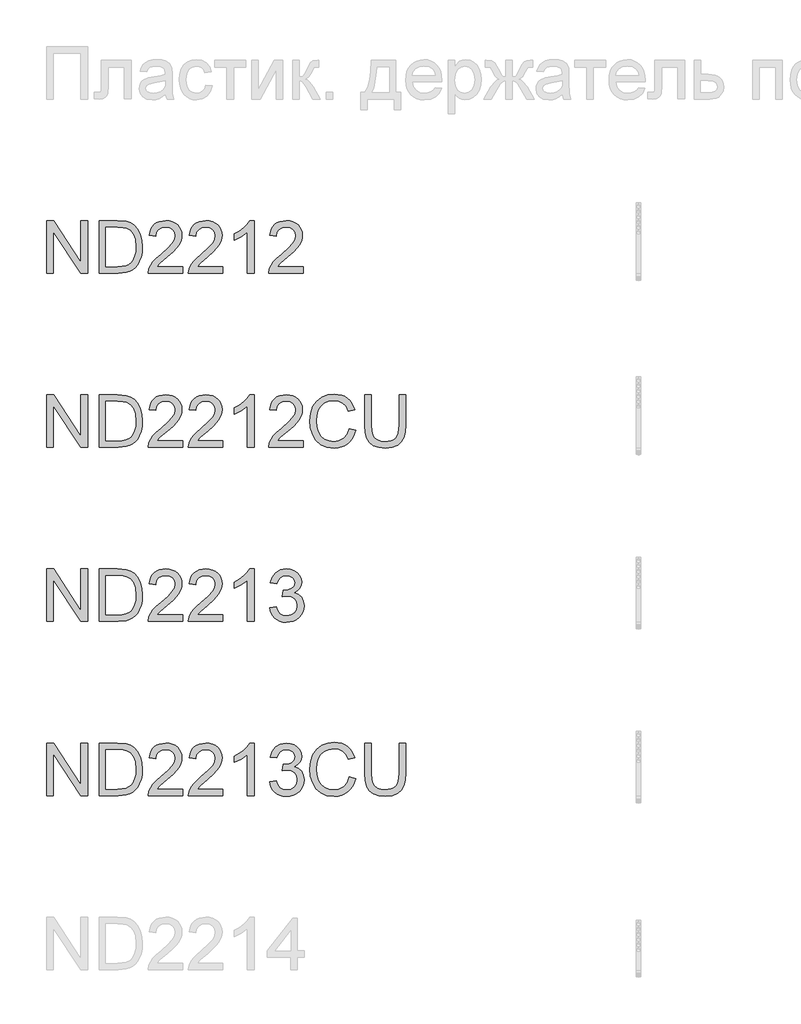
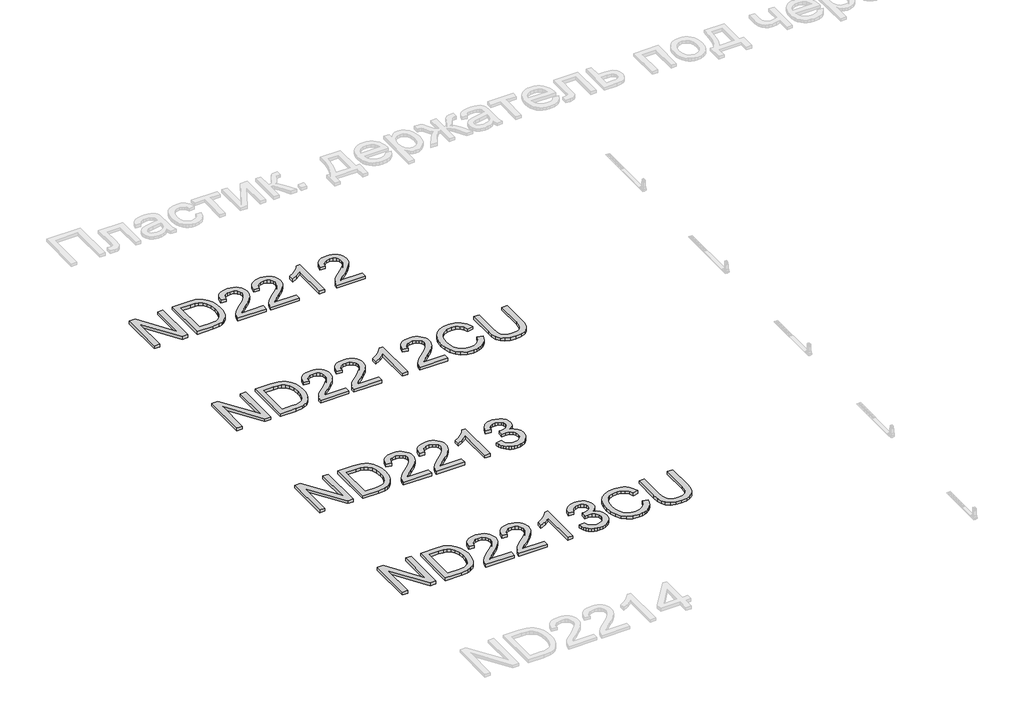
# One storey, part 71 of 124: 4 proxies.
"""IFC4 building model written with IfcOpenShell, lengths in millimetres."""

from ifc_helpers import new_model, si_unit, origin, origin_with_axes, place, context, project, spatial, polyline, outline, extrude, element, save

model = new_model("IFC4")

# Units and contexts
model_context = context("Model", 3, world=origin())
ifc_project = project(units=[si_unit("LENGTHUNIT", "METRE", prefix="MILLI")], contexts=[model_context])

# Site, building, storey
site = spatial("IfcSite", under=ifc_project)
building = spatial("IfcBuilding", under=site)
storey = spatial("IfcBuildingStorey", under=building, Name="Этаж 01", Elevation=0.0)

# Proxies
placement = place(None, origin())
element("IfcBuildingElementProxy", 1, Name="300", ObjectType="300", at=placement, inside=storey, context=model_context, shape_type="SweptSolid", body=[
    extrude(outline(polyline([(23426.0630912, -35519.5141033), (23426.0630912, -35218.1451728), (23466.3829579, -35218.1451728), (23623.8364518, -35456.9005877), (23623.8364518, -35218.1451728), (23661.5075681, -35218.1451728), (23661.5075681, -35519.5141033), (23621.1877014, -35519.5141033), (23463.7342075, -35280.685112), (23463.7342075, -35519.5141033), (23426.0630912, -35519.5141033)])), origin_with_axes(), (0.0, 0.0, 1.0), 20.0),
    extrude(outline(polyline([(23727.4320216, -35519.5141033), (23727.4320216, -35218.1451728), (23831.3954735, -35218.1451728), (23885.1798212, -35222.4861804), (23909.2025155, -35230.8554957), (23929.4728134, -35244.0440653), (23950.3133284, -35266.9999018), (23965.1573669, -35295.5475446), (23974.0417171, -35329.1351708), (23977.0031672, -35367.2109573), (23974.9982103, -35399.5569817), (23968.9833397, -35428.0218511), (23959.823078, -35452.2560775), (23948.3819479, -35471.9101731), (23935.2117725, -35487.4255962), (23920.8643747, -35499.2438053), (23904.3924584, -35508.0085939), (23884.8487274, -35514.3637553), (23836.3986686, -35519.5141033), (23727.4320216, -35519.5141033)]), holes=[polyline([(23765.1031379, -35481.842987), (23831.7633555, -35481.842987), (23859.336111, -35480.4818236), (23880.2502024, -35476.3983334), (23896.03234, -35469.8316398), (23908.2092341, -35461.020866), (23921.2966361, -35444.7144966), (23931.1282824, -35423.6072671), (23937.2811087, -35397.6072071), (23939.3320509, -35366.6223461), (23935.3129401, -35325.5667154), (23923.2556077, -35295.253239), (23905.4409221, -35274.4311181), (23884.1497516, -35261.8495538), (23862.4815021, -35257.3246053), (23830.7332859, -35255.8162891), (23765.1031379, -35255.8162891), (23765.1031379, -35481.842987)])]), origin_with_axes(), (0.0, 0.0, 1.0), 20.0),
    extrude(outline(polyline([(24207.7387545, -35481.842987), (24207.7387545, -35519.5141033), (24009.9653939, -35519.5141033), (24014.0120959, -35493.5416344), (24023.3011163, -35473.2437453), (24036.894356, -35453.5528615), (24056.5576486, -35432.9422727), (24084.0568278, -35409.8852687), (24124.7077882, -35373.7776509), (24149.0983645, -35347.1246003), (24161.2936527, -35325.493139), (24165.3587487, -35304.4502889), (24161.5235789, -35285.5871396), (24150.0180695, -35269.9061695), (24132.3321426, -35259.3387592), (24109.9557202, -35255.8162891), (24086.4572578, -35259.2559858), (24068.2011138, -35269.5750757), (24056.4196929, -35285.9642186), (24052.3453998, -35307.614074), (24014.6742835, -35302.9051845), (24023.806954, -35266.4664729), (24032.3533126, -35251.9305355), (24043.5530201, -35239.8502105), (24057.1485591, -35230.3542565), (24072.8824122, -35223.5714322), (24110.7650606, -35218.1451728), (24130.9548844, -35219.653489), (24148.9236206, -35224.1784375), (24164.6712692, -35231.7200184), (24178.1978303, -35242.2782317), (24189.0618455, -35255.0713281), (24196.8218563, -35269.3175583), (24201.4778628, -35285.0169225), (24203.029865, -35302.1694205), (24201.3560019, -35320.1864412), (24196.3344127, -35337.8907622), (24187.4224714, -35355.8985859), (24174.077552, -35374.8261146), (24152.8047756, -35397.4232661), (24120.1092633, -35426.4399585), (24076.7727643, -35462.676335), (24059.7766161, -35481.842987), (24207.7387545, -35481.842987)])), origin_with_axes(), (0.0, 0.0, 1.0), 20.0),
    extrude(outline(polyline([(24438.4743419, -35481.842987), (24438.4743419, -35519.5141033), (24240.7009813, -35519.5141033), (24244.7476833, -35493.5416344), (24254.0367036, -35473.2437453), (24267.6299434, -35453.5528615), (24287.293236, -35432.9422727), (24314.7924151, -35409.8852687), (24355.4433756, -35373.7776509), (24379.8339519, -35347.1246003), (24392.02924, -35325.493139), (24396.0943361, -35304.4502889), (24392.2591663, -35285.5871396), (24380.7536569, -35269.9061695), (24363.06773, -35259.3387592), (24340.6913076, -35255.8162891), (24317.1928452, -35259.2559858), (24298.9367012, -35269.5750757), (24287.1552803, -35285.9642186), (24283.0809872, -35307.614074), (24245.4098709, -35302.9051845), (24254.5425414, -35266.4664729), (24263.0889, -35251.9305355), (24274.2886075, -35239.8502105), (24287.8841465, -35230.3542565), (24303.6179995, -35223.5714322), (24341.500648, -35218.1451728), (24361.6904717, -35219.653489), (24379.6592079, -35224.1784375), (24395.4068566, -35231.7200184), (24408.9334177, -35242.2782317), (24419.7974329, -35255.0713281), (24427.5574437, -35269.3175583), (24432.2134502, -35285.0169225), (24433.7654524, -35302.1694205), (24432.0915893, -35320.1864412), (24427.0700001, -35337.8907622), (24418.1580587, -35355.8985859), (24404.8131394, -35374.8261146), (24383.540363, -35397.4232661), (24350.8448507, -35426.4399585), (24307.5083516, -35462.676335), (24290.5122035, -35481.842987), (24438.4743419, -35481.842987)])), origin_with_axes(), (0.0, 0.0, 1.0), 20.0),
    extrude(outline(polyline([(24617.4121444, -35519.5141033), (24579.7410281, -35519.5141033), (24579.7410281, -35284.6582375), (24544.0564745, -35310.0788834), (24504.3987955, -35329.0983826), (24504.3987955, -35293.4874054), (24533.9857049, -35277.3925681), (24559.6178829, -35258.2443103), (24579.8238015, -35237.8820419), (24593.1319327, -35218.1451728), (24617.4121444, -35218.1451728), (24617.4121444, -35519.5141033)])), origin_with_axes(), (0.0, 0.0, 1.0), 20.0),
    extrude(outline(polyline([(24899.9455167, -35481.842987), (24899.9455167, -35519.5141033), (24702.1721561, -35519.5141033), (24706.218858, -35493.5416344), (24715.5078784, -35473.2437453), (24729.1011181, -35453.5528615), (24748.7644108, -35432.9422727), (24776.2635899, -35409.8852687), (24816.9145504, -35373.7776509), (24841.3051266, -35347.1246003), (24853.5004148, -35325.493139), (24857.5655108, -35304.4502889), (24853.730341, -35285.5871396), (24842.2248316, -35269.9061695), (24824.5389047, -35259.3387592), (24802.1624824, -35255.8162891), (24778.6640199, -35259.2559858), (24760.4078759, -35269.5750757), (24748.626455, -35285.9642186), (24744.5521619, -35307.614074), (24706.8810456, -35302.9051845), (24716.0137161, -35266.4664729), (24724.5600747, -35251.9305355), (24735.7597822, -35239.8502105), (24749.3553212, -35230.3542565), (24765.0891743, -35223.5714322), (24802.9718227, -35218.1451728), (24823.1616465, -35219.653489), (24841.1303827, -35224.1784375), (24856.8780313, -35231.7200184), (24870.4045925, -35242.2782317), (24881.2686076, -35255.0713281), (24889.0286185, -35269.3175583), (24893.684625, -35285.0169225), (24895.2366271, -35302.1694205), (24893.5627641, -35320.1864412), (24888.5411748, -35337.8907622), (24879.6292335, -35355.8985859), (24866.2843141, -35374.8261146), (24845.0115377, -35397.4232661), (24812.3160254, -35426.4399585), (24768.9795264, -35462.676335), (24751.9833782, -35481.842987), (24899.9455167, -35481.842987)])), origin_with_axes(), (0.0, 0.0, 1.0), 20.0),
])
element("IfcBuildingElementProxy", 2, Name="300", ObjectType="300", at=placement, inside=storey, context=model_context, shape_type="SweptSolid", body=[
    extrude(outline(polyline([(23426.0630912, -36519.5141033), (23426.0630912, -36218.1451728), (23466.3829579, -36218.1451728), (23623.8364518, -36456.9005877), (23623.8364518, -36218.1451728), (23661.5075681, -36218.1451728), (23661.5075681, -36519.5141033), (23621.1877014, -36519.5141033), (23463.7342075, -36280.685112), (23463.7342075, -36519.5141033), (23426.0630912, -36519.5141033)])), origin_with_axes(), (0.0, 0.0, 1.0), 20.0),
    extrude(outline(polyline([(23727.4320216, -36519.5141033), (23727.4320216, -36218.1451728), (23831.3954735, -36218.1451728), (23885.1798212, -36222.4861804), (23909.2025155, -36230.8554957), (23929.4728134, -36244.0440653), (23950.3133284, -36266.9999018), (23965.1573669, -36295.5475446), (23974.0417171, -36329.1351708), (23977.0031672, -36367.2109573), (23974.9982103, -36399.5569817), (23968.9833397, -36428.0218511), (23959.823078, -36452.2560775), (23948.3819479, -36471.9101731), (23935.2117725, -36487.4255962), (23920.8643747, -36499.2438053), (23904.3924584, -36508.0085939), (23884.8487274, -36514.3637553), (23836.3986686, -36519.5141033), (23727.4320216, -36519.5141033)]), holes=[polyline([(23765.1031379, -36481.842987), (23831.7633555, -36481.842987), (23859.336111, -36480.4818236), (23880.2502024, -36476.3983334), (23896.03234, -36469.8316398), (23908.2092341, -36461.020866), (23921.2966361, -36444.7144966), (23931.1282824, -36423.6072671), (23937.2811087, -36397.6072071), (23939.3320509, -36366.6223461), (23935.3129401, -36325.5667154), (23923.2556077, -36295.253239), (23905.4409221, -36274.4311181), (23884.1497516, -36261.8495538), (23862.4815021, -36257.3246053), (23830.7332859, -36255.8162891), (23765.1031379, -36255.8162891), (23765.1031379, -36481.842987)])]), origin_with_axes(), (0.0, 0.0, 1.0), 20.0),
    extrude(outline(polyline([(24207.7387545, -36481.842987), (24207.7387545, -36519.5141033), (24009.9653939, -36519.5141033), (24014.0120959, -36493.5416344), (24023.3011163, -36473.2437453), (24036.894356, -36453.5528615), (24056.5576486, -36432.9422727), (24084.0568278, -36409.8852687), (24124.7077882, -36373.7776509), (24149.0983645, -36347.1246003), (24161.2936527, -36325.493139), (24165.3587487, -36304.4502889), (24161.5235789, -36285.5871396), (24150.0180695, -36269.9061695), (24132.3321426, -36259.3387592), (24109.9557202, -36255.8162891), (24086.4572578, -36259.2559858), (24068.2011138, -36269.5750757), (24056.4196929, -36285.9642186), (24052.3453998, -36307.614074), (24014.6742835, -36302.9051845), (24023.806954, -36266.4664729), (24032.3533126, -36251.9305355), (24043.5530201, -36239.8502105), (24057.1485591, -36230.3542565), (24072.8824122, -36223.5714322), (24110.7650606, -36218.1451728), (24130.9548844, -36219.653489), (24148.9236206, -36224.1784375), (24164.6712692, -36231.7200184), (24178.1978303, -36242.2782317), (24189.0618455, -36255.0713281), (24196.8218563, -36269.3175583), (24201.4778628, -36285.0169225), (24203.029865, -36302.1694205), (24201.3560019, -36320.1864412), (24196.3344127, -36337.8907622), (24187.4224714, -36355.8985859), (24174.077552, -36374.8261146), (24152.8047756, -36397.4232661), (24120.1092633, -36426.4399585), (24076.7727643, -36462.676335), (24059.7766161, -36481.842987), (24207.7387545, -36481.842987)])), origin_with_axes(), (0.0, 0.0, 1.0), 20.0),
    extrude(outline(polyline([(24438.4743419, -36481.842987), (24438.4743419, -36519.5141033), (24240.7009813, -36519.5141033), (24244.7476833, -36493.5416344), (24254.0367036, -36473.2437453), (24267.6299434, -36453.5528615), (24287.293236, -36432.9422727), (24314.7924151, -36409.8852687), (24355.4433756, -36373.7776509), (24379.8339519, -36347.1246003), (24392.02924, -36325.493139), (24396.0943361, -36304.4502889), (24392.2591663, -36285.5871396), (24380.7536569, -36269.9061695), (24363.06773, -36259.3387592), (24340.6913076, -36255.8162891), (24317.1928452, -36259.2559858), (24298.9367012, -36269.5750757), (24287.1552803, -36285.9642186), (24283.0809872, -36307.614074), (24245.4098709, -36302.9051845), (24254.5425414, -36266.4664729), (24263.0889, -36251.9305355), (24274.2886075, -36239.8502105), (24287.8841465, -36230.3542565), (24303.6179995, -36223.5714322), (24341.500648, -36218.1451728), (24361.6904717, -36219.653489), (24379.6592079, -36224.1784375), (24395.4068566, -36231.7200184), (24408.9334177, -36242.2782317), (24419.7974329, -36255.0713281), (24427.5574437, -36269.3175583), (24432.2134502, -36285.0169225), (24433.7654524, -36302.1694205), (24432.0915893, -36320.1864412), (24427.0700001, -36337.8907622), (24418.1580587, -36355.8985859), (24404.8131394, -36374.8261146), (24383.540363, -36397.4232661), (24350.8448507, -36426.4399585), (24307.5083516, -36462.676335), (24290.5122035, -36481.842987), (24438.4743419, -36481.842987)])), origin_with_axes(), (0.0, 0.0, 1.0), 20.0),
    extrude(outline(polyline([(24617.4121444, -36519.5141033), (24579.7410281, -36519.5141033), (24579.7410281, -36284.6582375), (24544.0564745, -36310.0788834), (24504.3987955, -36329.0983826), (24504.3987955, -36293.4874054), (24533.9857049, -36277.3925681), (24559.6178829, -36258.2443103), (24579.8238015, -36237.8820419), (24593.1319327, -36218.1451728), (24617.4121444, -36218.1451728), (24617.4121444, -36519.5141033)])), origin_with_axes(), (0.0, 0.0, 1.0), 20.0),
    extrude(outline(polyline([(24899.9455167, -36481.842987), (24899.9455167, -36519.5141033), (24702.1721561, -36519.5141033), (24706.218858, -36493.5416344), (24715.5078784, -36473.2437453), (24729.1011181, -36453.5528615), (24748.7644108, -36432.9422727), (24776.2635899, -36409.8852687), (24816.9145504, -36373.7776509), (24841.3051266, -36347.1246003), (24853.5004148, -36325.493139), (24857.5655108, -36304.4502889), (24853.730341, -36285.5871396), (24842.2248316, -36269.9061695), (24824.5389047, -36259.3387592), (24802.1624824, -36255.8162891), (24778.6640199, -36259.2559858), (24760.4078759, -36269.5750757), (24748.626455, -36285.9642186), (24744.5521619, -36307.614074), (24706.8810456, -36302.9051845), (24716.0137161, -36266.4664729), (24724.5600747, -36251.9305355), (24735.7597822, -36239.8502105), (24749.3553212, -36230.3542565), (24765.0891743, -36223.5714322), (24802.9718227, -36218.1451728), (24823.1616465, -36219.653489), (24841.1303827, -36224.1784375), (24856.8780313, -36231.7200184), (24870.4045925, -36242.2782317), (24881.2686076, -36255.0713281), (24889.0286185, -36269.3175583), (24893.684625, -36285.0169225), (24895.2366271, -36302.1694205), (24893.5627641, -36320.1864412), (24888.5411748, -36337.8907622), (24879.6292335, -36355.8985859), (24866.2843141, -36374.8261146), (24845.0115377, -36397.4232661), (24812.3160254, -36426.4399585), (24768.9795264, -36462.676335), (24751.9833782, -36481.842987), (24899.9455167, -36481.842987)])), origin_with_axes(), (0.0, 0.0, 1.0), 20.0),
    extrude(outline(polyline([(25163.6433308, -36412.3868663), (25201.3144471, -36422.0989509), (25193.8602382, -36445.5261362), (25183.9320228, -36465.99647), (25171.5298011, -36483.5099522), (25156.6535729, -36498.0665829), (25139.6390306, -36509.5100123), (25120.8218666, -36517.6838903), (25100.2020807, -36522.5882172), (25077.7796731, -36524.2229928), (25034.0844892, -36519.27498), (24999.38402, -36504.4309415), (24972.7861517, -36480.2059121), (24953.3987706, -36447.1149266), (24941.5621674, -36408.2114056), (24937.616633, -36366.5487697), (24942.0772022, -36322.6052653), (24955.4589097, -36284.6582375), (24977.0627799, -36253.9124998), (25006.1898369, -36231.5728656), (25040.7339562, -36217.9704289), (25078.5890135, -36213.4362833), (25119.8929645, -36219.3040011), (25137.8617007, -36226.6386484), (25154.0416107, -36236.9071546), (25168.1659801, -36249.8382067), (25179.9680943, -36265.1604918), (25196.6055576, -36302.9787609), (25158.9344413, -36311.9550816), (25145.8746304, -36284.4834936), (25128.0323537, -36265.6387384), (25105.1868818, -36254.7402343), (25077.1174855, -36251.1073996), (25044.7622641, -36255.1357074), (25018.1827899, -36267.220631), (24998.0136595, -36286.0929773), (24984.8894694, -36310.4835536), (24977.6881793, -36338.0563091), (24975.2877493, -36366.4751933), (24978.1296377, -36401.27683), (24986.6553029, -36431.3695772), (25001.1866417, -36455.6038036), (25022.0455509, -36472.8298781), (25047.0523295, -36483.1213769), (25074.0272768, -36486.5518765), (25105.4719903, -36481.8797752), (25131.6743854, -36467.8634711), (25151.4572397, -36444.6501172), (25163.6433308, -36412.3868663)])), origin_with_axes(), (0.0, 0.0, 1.0), 20.0),
    extrude(outline(polyline([(25450.8855926, -36218.1451728), (25488.556709, -36218.1451728), (25488.556709, -36392.0062037), (25485.9999291, -36432.7215435), (25478.3295895, -36464.0742866), (25464.0005858, -36488.2625278), (25441.4678136, -36507.484362), (25410.6760906, -36520.0383351), (25371.5702345, -36524.2229928), (25333.319704, -36520.580961), (25302.7395132, -36509.6548658), (25279.8204649, -36491.8217861), (25264.5533621, -36467.4588009), (25255.9725146, -36434.7816827), (25253.112232, -36392.0062037), (25253.112232, -36218.1451728), (25290.7833483, -36218.1451728), (25290.7833483, -36390.6818285), (25292.6411524, -36424.5361692), (25298.2145646, -36448.108208), (25308.3129254, -36464.4329715), (25323.7455751, -36476.5454862), (25343.8687203, -36484.0502789), (25368.0385673, -36486.5518765), (25406.3534771, -36481.6038637), (25420.6962764, -36475.4188476), (25431.8293053, -36466.7598252), (25440.166431, -36454.5829311), (25446.1215208, -36437.8443003), (25450.8855926, -36390.6818285), (25450.8855926, -36218.1451728)])), origin_with_axes(), (0.0, 0.0, 1.0), 20.0),
])
element("IfcBuildingElementProxy", 3, Name="300", ObjectType="300", at=placement, inside=storey, context=model_context, shape_type="SweptSolid", body=[
    extrude(outline(polyline([(23426.0630912, -37519.5141033), (23426.0630912, -37218.1451728), (23466.3829579, -37218.1451728), (23623.8364518, -37456.9005877), (23623.8364518, -37218.1451728), (23661.5075681, -37218.1451728), (23661.5075681, -37519.5141033), (23621.1877014, -37519.5141033), (23463.7342075, -37280.685112), (23463.7342075, -37519.5141033), (23426.0630912, -37519.5141033)])), origin_with_axes(), (0.0, 0.0, 1.0), 20.0),
    extrude(outline(polyline([(23727.4320216, -37519.5141033), (23727.4320216, -37218.1451728), (23831.3954735, -37218.1451728), (23885.1798212, -37222.4861804), (23909.2025155, -37230.8554957), (23929.4728134, -37244.0440653), (23950.3133284, -37266.9999018), (23965.1573669, -37295.5475446), (23974.0417171, -37329.1351708), (23977.0031672, -37367.2109573), (23974.9982103, -37399.5569817), (23968.9833397, -37428.0218511), (23959.823078, -37452.2560775), (23948.3819479, -37471.9101731), (23935.2117725, -37487.4255962), (23920.8643747, -37499.2438053), (23904.3924584, -37508.0085939), (23884.8487274, -37514.3637553), (23836.3986686, -37519.5141033), (23727.4320216, -37519.5141033)]), holes=[polyline([(23765.1031379, -37481.842987), (23831.7633555, -37481.842987), (23859.336111, -37480.4818236), (23880.2502024, -37476.3983334), (23896.03234, -37469.8316398), (23908.2092341, -37461.020866), (23921.2966361, -37444.7144966), (23931.1282824, -37423.6072671), (23937.2811087, -37397.6072071), (23939.3320509, -37366.6223461), (23935.3129401, -37325.5667154), (23923.2556077, -37295.253239), (23905.4409221, -37274.4311181), (23884.1497516, -37261.8495538), (23862.4815021, -37257.3246053), (23830.7332859, -37255.8162891), (23765.1031379, -37255.8162891), (23765.1031379, -37481.842987)])]), origin_with_axes(), (0.0, 0.0, 1.0), 20.0),
    extrude(outline(polyline([(24207.7387545, -37481.842987), (24207.7387545, -37519.5141033), (24009.9653939, -37519.5141033), (24014.0120959, -37493.5416344), (24023.3011163, -37473.2437453), (24036.894356, -37453.5528615), (24056.5576486, -37432.9422727), (24084.0568278, -37409.8852687), (24124.7077882, -37373.7776509), (24149.0983645, -37347.1246003), (24161.2936527, -37325.493139), (24165.3587487, -37304.4502889), (24161.5235789, -37285.5871396), (24150.0180695, -37269.9061695), (24132.3321426, -37259.3387592), (24109.9557202, -37255.8162891), (24086.4572578, -37259.2559858), (24068.2011138, -37269.5750757), (24056.4196929, -37285.9642186), (24052.3453998, -37307.614074), (24014.6742835, -37302.9051845), (24023.806954, -37266.4664729), (24032.3533126, -37251.9305355), (24043.5530201, -37239.8502105), (24057.1485591, -37230.3542565), (24072.8824122, -37223.5714322), (24110.7650606, -37218.1451728), (24130.9548844, -37219.653489), (24148.9236206, -37224.1784375), (24164.6712692, -37231.7200184), (24178.1978303, -37242.2782317), (24189.0618455, -37255.0713281), (24196.8218563, -37269.3175583), (24201.4778628, -37285.0169225), (24203.029865, -37302.1694205), (24201.3560019, -37320.1864412), (24196.3344127, -37337.8907622), (24187.4224714, -37355.8985859), (24174.077552, -37374.8261146), (24152.8047756, -37397.4232661), (24120.1092633, -37426.4399585), (24076.7727643, -37462.676335), (24059.7766161, -37481.842987), (24207.7387545, -37481.842987)])), origin_with_axes(), (0.0, 0.0, 1.0), 20.0),
    extrude(outline(polyline([(24438.4743419, -37481.842987), (24438.4743419, -37519.5141033), (24240.7009813, -37519.5141033), (24244.7476833, -37493.5416344), (24254.0367036, -37473.2437453), (24267.6299434, -37453.5528615), (24287.293236, -37432.9422727), (24314.7924151, -37409.8852687), (24355.4433756, -37373.7776509), (24379.8339519, -37347.1246003), (24392.02924, -37325.493139), (24396.0943361, -37304.4502889), (24392.2591663, -37285.5871396), (24380.7536569, -37269.9061695), (24363.06773, -37259.3387592), (24340.6913076, -37255.8162891), (24317.1928452, -37259.2559858), (24298.9367012, -37269.5750757), (24287.1552803, -37285.9642186), (24283.0809872, -37307.614074), (24245.4098709, -37302.9051845), (24254.5425414, -37266.4664729), (24263.0889, -37251.9305355), (24274.2886075, -37239.8502105), (24287.8841465, -37230.3542565), (24303.6179995, -37223.5714322), (24341.500648, -37218.1451728), (24361.6904717, -37219.653489), (24379.6592079, -37224.1784375), (24395.4068566, -37231.7200184), (24408.9334177, -37242.2782317), (24419.7974329, -37255.0713281), (24427.5574437, -37269.3175583), (24432.2134502, -37285.0169225), (24433.7654524, -37302.1694205), (24432.0915893, -37320.1864412), (24427.0700001, -37337.8907622), (24418.1580587, -37355.8985859), (24404.8131394, -37374.8261146), (24383.540363, -37397.4232661), (24350.8448507, -37426.4399585), (24307.5083516, -37462.676335), (24290.5122035, -37481.842987), (24438.4743419, -37481.842987)])), origin_with_axes(), (0.0, 0.0, 1.0), 20.0),
    extrude(outline(polyline([(24617.4121444, -37519.5141033), (24579.7410281, -37519.5141033), (24579.7410281, -37284.6582375), (24544.0564745, -37310.0788834), (24504.3987955, -37329.0983826), (24504.3987955, -37293.4874054), (24533.9857049, -37277.3925681), (24559.6178829, -37258.2443103), (24579.8238015, -37237.8820419), (24593.1319327, -37218.1451728), (24617.4121444, -37218.1451728), (24617.4121444, -37519.5141033)])), origin_with_axes(), (0.0, 0.0, 1.0), 20.0),
    extrude(outline(polyline([(24706.8810456, -37439.4629811), (24744.5521619, -37434.7540916), (24752.9858566, -37458.427298), (24765.3374946, -37474.4117707), (24782.2140812, -37483.51685), (24804.2226215, -37486.5518765), (24830.0479376, -37482.3764158), (24849.9871417, -37469.8500339), (24862.7342529, -37451.1616286), (24866.9832899, -37428.5000977), (24862.7710411, -37406.988198), (24850.1342945, -37389.5413944), (24831.0044308, -37377.9807027), (24807.3128303, -37374.1271388), (24780.898903, -37378.2474171), (24785.0927578, -37340.5763008), (24791.1260225, -37341.0177592), (24813.6955829, -37338.3138265), (24833.8739103, -37330.2020285), (24848.1109436, -37316.4800301), (24852.8566213, -37296.9454962), (24849.4169246, -37280.6759149), (24839.0978347, -37267.4781484), (24823.3524853, -37258.7317539), (24803.6340103, -37255.8162891), (24783.8787472, -37258.7593451), (24767.7287276, -37267.588513), (24755.9381097, -37282.3037928), (24749.2610514, -37302.9051845), (24711.5899351, -37298.196295), (24722.6815773, -37264.3695455), (24742.4184463, -37239.1144465), (24769.4209848, -37223.3874912), (24802.3096352, -37218.1451728), (24825.9920386, -37220.7295438), (24847.7430616, -37228.4826569), (24866.081979, -37240.7147332), (24879.5280659, -37256.7359941), (24887.7778197, -37275.1944732), (24890.5277376, -37294.7382042), (24887.9157754, -37312.948363), (24880.0798889, -37329.4662646), (24867.1304427, -37343.5377509), (24849.1778013, -37354.4086638), (24872.7590372, -37363.9368075), (24890.233432, -37380.1604035), (24901.0491627, -37402.196535), (24904.6544062, -37429.1622852), (24902.8517844, -37448.2737549), (24897.4439191, -37465.8769084), (24888.4308102, -37481.9717457), (24875.8124578, -37496.5582668), (24860.4395889, -37508.6615844), (24843.1629307, -37517.3068113), (24823.9824832, -37522.4939474), (24802.8982463, -37524.2229928), (24783.841959, -37522.7468663), (24766.4779288, -37518.3184868), (24750.8061558, -37510.9378542), (24736.82664, -37500.6049687), (24725.1049999, -37487.9268354), (24716.2068542, -37473.5104598), (24710.1322027, -37457.3558417), (24706.8810456, -37439.4629811)])), origin_with_axes(), (0.0, 0.0, 1.0), 20.0),
])
element("IfcBuildingElementProxy", 4, Name="300", ObjectType="300", at=placement, inside=storey, context=model_context, shape_type="SweptSolid", body=[
    extrude(outline(polyline([(23426.0630912, -38519.5141033), (23426.0630912, -38218.1451728), (23466.3829579, -38218.1451728), (23623.8364518, -38456.9005877), (23623.8364518, -38218.1451728), (23661.5075681, -38218.1451728), (23661.5075681, -38519.5141033), (23621.1877014, -38519.5141033), (23463.7342075, -38280.685112), (23463.7342075, -38519.5141033), (23426.0630912, -38519.5141033)])), origin_with_axes(), (0.0, 0.0, 1.0), 20.0),
    extrude(outline(polyline([(23727.4320216, -38519.5141033), (23727.4320216, -38218.1451728), (23831.3954735, -38218.1451728), (23885.1798212, -38222.4861804), (23909.2025155, -38230.8554957), (23929.4728134, -38244.0440653), (23950.3133284, -38266.9999018), (23965.1573669, -38295.5475446), (23974.0417171, -38329.1351708), (23977.0031672, -38367.2109573), (23974.9982103, -38399.5569817), (23968.9833397, -38428.0218511), (23959.823078, -38452.2560775), (23948.3819479, -38471.9101731), (23935.2117725, -38487.4255962), (23920.8643747, -38499.2438053), (23904.3924584, -38508.0085939), (23884.8487274, -38514.3637553), (23836.3986686, -38519.5141033), (23727.4320216, -38519.5141033)]), holes=[polyline([(23765.1031379, -38481.842987), (23831.7633555, -38481.842987), (23859.336111, -38480.4818236), (23880.2502024, -38476.3983334), (23896.03234, -38469.8316398), (23908.2092341, -38461.020866), (23921.2966361, -38444.7144966), (23931.1282824, -38423.6072671), (23937.2811087, -38397.6072071), (23939.3320509, -38366.6223461), (23935.3129401, -38325.5667154), (23923.2556077, -38295.253239), (23905.4409221, -38274.4311181), (23884.1497516, -38261.8495538), (23862.4815021, -38257.3246053), (23830.7332859, -38255.8162891), (23765.1031379, -38255.8162891), (23765.1031379, -38481.842987)])]), origin_with_axes(), (0.0, 0.0, 1.0), 20.0),
    extrude(outline(polyline([(24207.7387545, -38481.842987), (24207.7387545, -38519.5141033), (24009.9653939, -38519.5141033), (24014.0120959, -38493.5416344), (24023.3011163, -38473.2437453), (24036.894356, -38453.5528615), (24056.5576486, -38432.9422727), (24084.0568278, -38409.8852687), (24124.7077882, -38373.7776509), (24149.0983645, -38347.1246003), (24161.2936527, -38325.493139), (24165.3587487, -38304.4502889), (24161.5235789, -38285.5871396), (24150.0180695, -38269.9061695), (24132.3321426, -38259.3387592), (24109.9557202, -38255.8162891), (24086.4572578, -38259.2559858), (24068.2011138, -38269.5750757), (24056.4196929, -38285.9642186), (24052.3453998, -38307.614074), (24014.6742835, -38302.9051845), (24023.806954, -38266.4664729), (24032.3533126, -38251.9305355), (24043.5530201, -38239.8502105), (24057.1485591, -38230.3542565), (24072.8824122, -38223.5714322), (24110.7650606, -38218.1451728), (24130.9548844, -38219.653489), (24148.9236206, -38224.1784375), (24164.6712692, -38231.7200184), (24178.1978303, -38242.2782317), (24189.0618455, -38255.0713281), (24196.8218563, -38269.3175583), (24201.4778628, -38285.0169225), (24203.029865, -38302.1694205), (24201.3560019, -38320.1864412), (24196.3344127, -38337.8907622), (24187.4224714, -38355.8985859), (24174.077552, -38374.8261146), (24152.8047756, -38397.4232661), (24120.1092633, -38426.4399585), (24076.7727643, -38462.676335), (24059.7766161, -38481.842987), (24207.7387545, -38481.842987)])), origin_with_axes(), (0.0, 0.0, 1.0), 20.0),
    extrude(outline(polyline([(24438.4743419, -38481.842987), (24438.4743419, -38519.5141033), (24240.7009813, -38519.5141033), (24244.7476833, -38493.5416344), (24254.0367036, -38473.2437453), (24267.6299434, -38453.5528615), (24287.293236, -38432.9422727), (24314.7924151, -38409.8852687), (24355.4433756, -38373.7776509), (24379.8339519, -38347.1246003), (24392.02924, -38325.493139), (24396.0943361, -38304.4502889), (24392.2591663, -38285.5871396), (24380.7536569, -38269.9061695), (24363.06773, -38259.3387592), (24340.6913076, -38255.8162891), (24317.1928452, -38259.2559858), (24298.9367012, -38269.5750757), (24287.1552803, -38285.9642186), (24283.0809872, -38307.614074), (24245.4098709, -38302.9051845), (24254.5425414, -38266.4664729), (24263.0889, -38251.9305355), (24274.2886075, -38239.8502105), (24287.8841465, -38230.3542565), (24303.6179995, -38223.5714322), (24341.500648, -38218.1451728), (24361.6904717, -38219.653489), (24379.6592079, -38224.1784375), (24395.4068566, -38231.7200184), (24408.9334177, -38242.2782317), (24419.7974329, -38255.0713281), (24427.5574437, -38269.3175583), (24432.2134502, -38285.0169225), (24433.7654524, -38302.1694205), (24432.0915893, -38320.1864412), (24427.0700001, -38337.8907622), (24418.1580587, -38355.8985859), (24404.8131394, -38374.8261146), (24383.540363, -38397.4232661), (24350.8448507, -38426.4399585), (24307.5083516, -38462.676335), (24290.5122035, -38481.842987), (24438.4743419, -38481.842987)])), origin_with_axes(), (0.0, 0.0, 1.0), 20.0),
    extrude(outline(polyline([(24617.4121444, -38519.5141033), (24579.7410281, -38519.5141033), (24579.7410281, -38284.6582375), (24544.0564745, -38310.0788834), (24504.3987955, -38329.0983826), (24504.3987955, -38293.4874054), (24533.9857049, -38277.3925681), (24559.6178829, -38258.2443103), (24579.8238015, -38237.8820419), (24593.1319327, -38218.1451728), (24617.4121444, -38218.1451728), (24617.4121444, -38519.5141033)])), origin_with_axes(), (0.0, 0.0, 1.0), 20.0),
    extrude(outline(polyline([(24706.8810456, -38439.4629811), (24744.5521619, -38434.7540916), (24752.9858566, -38458.427298), (24765.3374946, -38474.4117707), (24782.2140812, -38483.51685), (24804.2226215, -38486.5518765), (24830.0479376, -38482.3764158), (24849.9871417, -38469.8500339), (24862.7342529, -38451.1616286), (24866.9832899, -38428.5000977), (24862.7710411, -38406.988198), (24850.1342945, -38389.5413944), (24831.0044308, -38377.9807027), (24807.3128303, -38374.1271388), (24780.898903, -38378.2474171), (24785.0927578, -38340.5763008), (24791.1260225, -38341.0177592), (24813.6955829, -38338.3138265), (24833.8739103, -38330.2020285), (24848.1109436, -38316.4800301), (24852.8566213, -38296.9454962), (24849.4169246, -38280.6759149), (24839.0978347, -38267.4781484), (24823.3524853, -38258.7317539), (24803.6340103, -38255.8162891), (24783.8787472, -38258.7593451), (24767.7287276, -38267.588513), (24755.9381097, -38282.3037928), (24749.2610514, -38302.9051845), (24711.5899351, -38298.196295), (24722.6815773, -38264.3695455), (24742.4184463, -38239.1144465), (24769.4209848, -38223.3874912), (24802.3096352, -38218.1451728), (24825.9920386, -38220.7295438), (24847.7430616, -38228.4826569), (24866.081979, -38240.7147332), (24879.5280659, -38256.7359941), (24887.7778197, -38275.1944732), (24890.5277376, -38294.7382042), (24887.9157754, -38312.948363), (24880.0798889, -38329.4662646), (24867.1304427, -38343.5377509), (24849.1778013, -38354.4086638), (24872.7590372, -38363.9368075), (24890.233432, -38380.1604035), (24901.0491627, -38402.196535), (24904.6544062, -38429.1622852), (24902.8517844, -38448.2737549), (24897.4439191, -38465.8769084), (24888.4308102, -38481.9717457), (24875.8124578, -38496.5582668), (24860.4395889, -38508.6615844), (24843.1629307, -38517.3068113), (24823.9824832, -38522.4939474), (24802.8982463, -38524.2229928), (24783.841959, -38522.7468663), (24766.4779288, -38518.3184868), (24750.8061558, -38510.9378542), (24736.82664, -38500.6049687), (24725.1049999, -38487.9268354), (24716.2068542, -38473.5104598), (24710.1322027, -38457.3558417), (24706.8810456, -38439.4629811)])), origin_with_axes(), (0.0, 0.0, 1.0), 20.0),
    extrude(outline(polyline([(25163.6433308, -38412.3868663), (25201.3144471, -38422.0989509), (25193.8602382, -38445.5261362), (25183.9320228, -38465.99647), (25171.5298011, -38483.5099522), (25156.6535729, -38498.0665829), (25139.6390306, -38509.5100123), (25120.8218666, -38517.6838903), (25100.2020807, -38522.5882172), (25077.7796731, -38524.2229928), (25034.0844892, -38519.27498), (24999.38402, -38504.4309415), (24972.7861517, -38480.2059121), (24953.3987706, -38447.1149266), (24941.5621674, -38408.2114056), (24937.616633, -38366.5487697), (24942.0772022, -38322.6052653), (24955.4589097, -38284.6582375), (24977.0627799, -38253.9124998), (25006.1898369, -38231.5728656), (25040.7339562, -38217.9704289), (25078.5890135, -38213.4362833), (25119.8929645, -38219.3040011), (25137.8617007, -38226.6386484), (25154.0416107, -38236.9071546), (25168.1659801, -38249.8382067), (25179.9680943, -38265.1604918), (25196.6055576, -38302.9787609), (25158.9344413, -38311.9550816), (25145.8746304, -38284.4834936), (25128.0323537, -38265.6387384), (25105.1868818, -38254.7402343), (25077.1174855, -38251.1073996), (25044.7622641, -38255.1357074), (25018.1827899, -38267.220631), (24998.0136595, -38286.0929773), (24984.8894694, -38310.4835536), (24977.6881793, -38338.0563091), (24975.2877493, -38366.4751933), (24978.1296377, -38401.27683), (24986.6553029, -38431.3695772), (25001.1866417, -38455.6038036), (25022.0455509, -38472.8298781), (25047.0523295, -38483.1213769), (25074.0272768, -38486.5518765), (25105.4719903, -38481.8797752), (25131.6743854, -38467.8634711), (25151.4572397, -38444.6501172), (25163.6433308, -38412.3868663)])), origin_with_axes(), (0.0, 0.0, 1.0), 20.0),
    extrude(outline(polyline([(25450.8855926, -38218.1451728), (25488.556709, -38218.1451728), (25488.556709, -38392.0062037), (25485.9999291, -38432.7215435), (25478.3295895, -38464.0742866), (25464.0005858, -38488.2625278), (25441.4678136, -38507.484362), (25410.6760906, -38520.0383351), (25371.5702345, -38524.2229928), (25333.319704, -38520.580961), (25302.7395132, -38509.6548658), (25279.8204649, -38491.8217861), (25264.5533621, -38467.4588009), (25255.9725146, -38434.7816827), (25253.112232, -38392.0062037), (25253.112232, -38218.1451728), (25290.7833483, -38218.1451728), (25290.7833483, -38390.6818285), (25292.6411524, -38424.5361692), (25298.2145646, -38448.108208), (25308.3129254, -38464.4329715), (25323.7455751, -38476.5454862), (25343.8687203, -38484.0502789), (25368.0385673, -38486.5518765), (25406.3534771, -38481.6038637), (25420.6962764, -38475.4188476), (25431.8293053, -38466.7598252), (25440.166431, -38454.5829311), (25446.1215208, -38437.8443003), (25450.8855926, -38390.6818285), (25450.8855926, -38218.1451728)])), origin_with_axes(), (0.0, 0.0, 1.0), 20.0),
])

save(model, "model.ifc")
